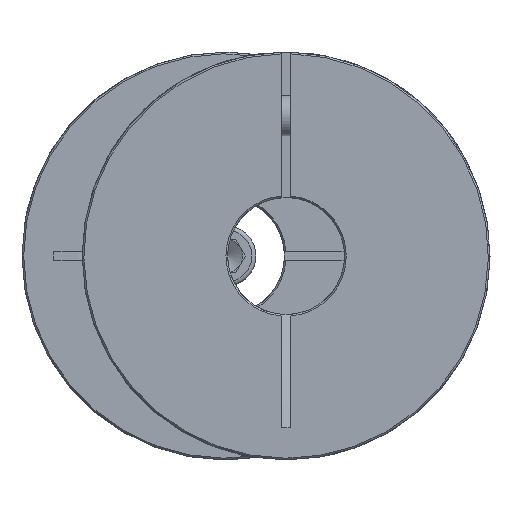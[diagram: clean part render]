
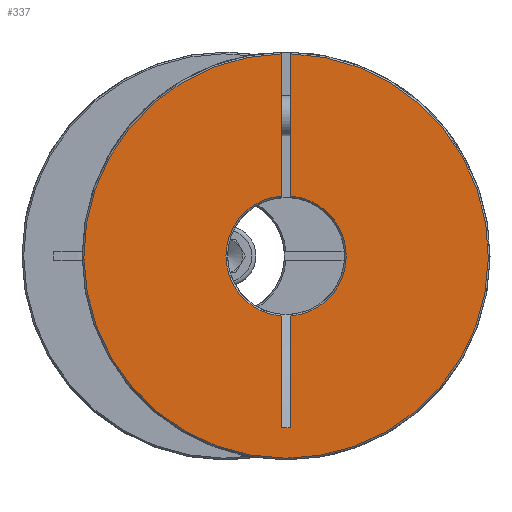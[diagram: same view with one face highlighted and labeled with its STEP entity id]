
A CAD part, left-side view. The second image highlights one B-rep face of the part: STEP entity #337.
In plain terms, the highlighted planar face has unit normal (-1, 0, 0).
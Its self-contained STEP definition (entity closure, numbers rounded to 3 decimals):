
#337 = ADVANCED_FACE( 'NONE', ( #586 ), #587, .F. );
#586 = FACE_OUTER_BOUND( '', #853, .T. );
#587 = PLANE( '', #854 );
#853 = EDGE_LOOP( '', ( #1203, #1204, #1205, #1206, #1207, #1208, #1209, #1210 ) );
#854 = AXIS2_PLACEMENT_3D( '', #1211, #1212, #1213 );
#1203 = ORIENTED_EDGE( '', *, *, #1664, .T. );
#1204 = ORIENTED_EDGE( '', *, *, #1666, .T. );
#1205 = ORIENTED_EDGE( '', *, *, #1668, .T. );
#1206 = ORIENTED_EDGE( '', *, *, #1636, .T. );
#1207 = ORIENTED_EDGE( '', *, *, #1652, .F. );
#1208 = ORIENTED_EDGE( '', *, *, #1650, .T. );
#1209 = ORIENTED_EDGE( '', *, *, #1656, .F. );
#1210 = ORIENTED_EDGE( '', *, *, #1659, .T. );
#1211 = CARTESIAN_POINT( '', ( 0., 17.5, 0. ) );
#1212 = DIRECTION( '', ( 1., 0., 0. ) );
#1213 = DIRECTION( '', ( 0., 1., 0. ) );
#1636 = EDGE_CURVE( 'NONE', #1801, #1799, #1802, .F. );
#1650 = EDGE_CURVE( 'NONE', #1828, #1826, #1829, .T. );
#1652 = EDGE_CURVE( 'NONE', #1828, #1799, #1831, .F. );
#1656 = EDGE_CURVE( 'NONE', #1837, #1826, #1838, .F. );
#1659 = EDGE_CURVE( 'NONE', #1837, #1840, #1842, .T. );
#1664 = EDGE_CURVE( 'NONE', #1840, #1848, #1850, .T. );
#1666 = EDGE_CURVE( 'NONE', #1848, #1853, #1854, .T. );
#1668 = EDGE_CURVE( 'NONE', #1853, #1801, #1856, .T. );
#1799 = VERTEX_POINT( 'NONE', #1981 );
#1801 = VERTEX_POINT( 'NONE', #1986 );
#1802 = CIRCLE( '', #1987, 60.5 );
#1826 = VERTEX_POINT( 'NONE', #2022 );
#1828 = VERTEX_POINT( 'NONE', #2027 );
#1829 = CIRCLE( '', #2028, 18. );
#1831 = LINE( '', #2033, #2034 );
#1837 = VERTEX_POINT( 'NONE', #2042 );
#1838 = LINE( '', #2043, #2044 );
#1840 = VERTEX_POINT( 'NONE', #2046 );
#1842 = LINE( '', #2048, #2049 );
#1848 = VERTEX_POINT( 'NONE', #2055 );
#1850 = LINE( '', #2060, #2061 );
#1853 = VERTEX_POINT( 'NONE', #2141 );
#1854 = CIRCLE( '', #2142, 18. );
#1856 = LINE( '', #2147, #2148 );
#1981 = CARTESIAN_POINT( '', ( 0., -60.486, -1.3 ) );
#1986 = CARTESIAN_POINT( '', ( 0., -60.486, 1.3 ) );
#1987 = AXIS2_PLACEMENT_3D( '', #2381, #2382, #2383 );
#2022 = CARTESIAN_POINT( '', ( 0., 17.953, -1.3 ) );
#2027 = CARTESIAN_POINT( '', ( 0., -17.953, -1.3 ) );
#2028 = AXIS2_PLACEMENT_3D( '', #2404, #2405, #2406 );
#2033 = CARTESIAN_POINT( '', ( 0., -13., -1.3 ) );
#2034 = VECTOR( '', #2407, 1000. );
#2042 = CARTESIAN_POINT( '', ( 0., 51.446, -1.3 ) );
#2043 = CARTESIAN_POINT( '', ( 0., -13., -1.3 ) );
#2044 = VECTOR( '', #2413, 1000. );
#2046 = CARTESIAN_POINT( '', ( 0., 51.446, 1.3 ) );
#2048 = CARTESIAN_POINT( '', ( 0., 51.446, -1.3 ) );
#2049 = VECTOR( '', #2420, 1000. );
#2055 = CARTESIAN_POINT( '', ( 0., 17.953, 1.3 ) );
#2060 = CARTESIAN_POINT( '', ( 0., 17.5, 1.3 ) );
#2061 = VECTOR( '', #2430, 1000. );
#2141 = CARTESIAN_POINT( '', ( 0., -17.953, 1.3 ) );
#2142 = AXIS2_PLACEMENT_3D( '', #2431, #2432, #2433 );
#2147 = CARTESIAN_POINT( '', ( 0., 17.5, 1.3 ) );
#2148 = VECTOR( '', #2434, 1000. );
#2381 = CARTESIAN_POINT( '', ( 0., 0., 0. ) );
#2382 = DIRECTION( '', ( 1., 0., 0. ) );
#2383 = DIRECTION( '', ( 0., 0., -1. ) );
#2404 = CARTESIAN_POINT( '', ( 0., 0., 0. ) );
#2405 = DIRECTION( '', ( 1., 0., 0. ) );
#2406 = DIRECTION( '', ( 0., 0., -1. ) );
#2407 = DIRECTION( '', ( 0., 1., 0. ) );
#2413 = DIRECTION( '', ( 0., 1., 0. ) );
#2420 = DIRECTION( '', ( 0., 0., 1. ) );
#2430 = DIRECTION( '', ( 0., -1., 0. ) );
#2431 = CARTESIAN_POINT( '', ( 0., 0., 0. ) );
#2432 = DIRECTION( '', ( 1., 0., 0. ) );
#2433 = DIRECTION( '', ( 0., 0., -1. ) );
#2434 = DIRECTION( '', ( 0., -1., 0. ) );
